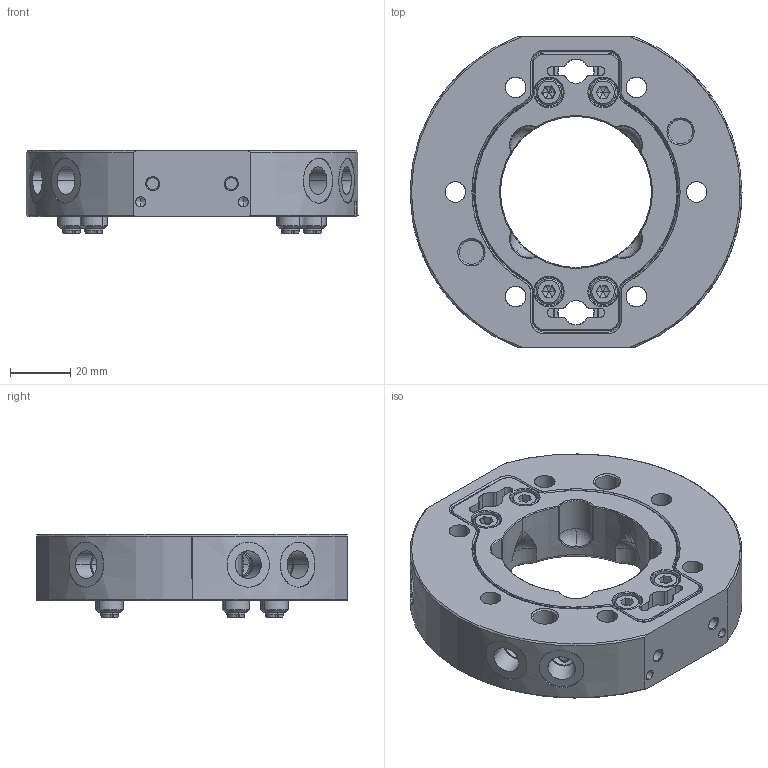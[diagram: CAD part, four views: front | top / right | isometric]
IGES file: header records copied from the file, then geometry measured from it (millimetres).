
Start section: SolidWorks IGES file using analytic representation for surfaces
Global section: file name: C:\Users\STAR056C\Desktop\140316\ネット記載用\140316.IGS; native system: SolidWorks 2016; preprocessor: SolidWorks 2016; author: STAR056C; date: 170717.185136; units: millimetre
Bounding box: 110 x 103 x 27.5 mm (x, y, z)
Surface area: 50801.3 mm2 (no closed solid volume)
Topology: 0 solids, 0 shells, 953 faces, 14130 edges, 14072 vertices
Faces by surface type: revolution 602, bspline 351
